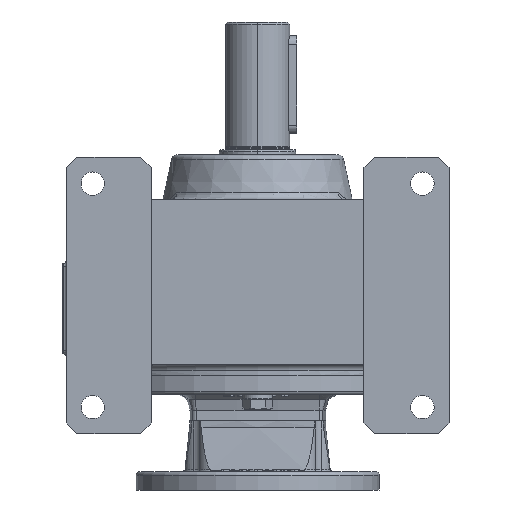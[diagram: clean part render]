
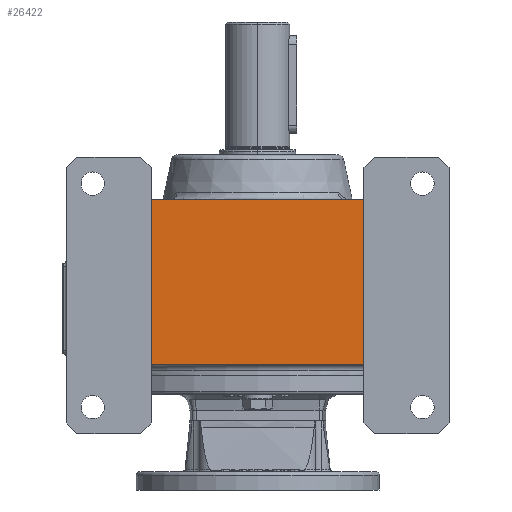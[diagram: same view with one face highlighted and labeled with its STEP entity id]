
A CAD part, front view. The second image highlights one B-rep face of the part: STEP entity #26422.
In plain terms, the highlighted planar face has unit normal (0, -1, 0).
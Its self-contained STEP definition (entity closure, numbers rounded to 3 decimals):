
#3644 = EDGE_LOOP ( 'NONE', ( #6462, #6472, #6470, #6475, #6479, #6484 ) ) ;
#6462 = ORIENTED_EDGE ( 'NONE', *, *, #26811, .F. ) ;
#6470 = ORIENTED_EDGE ( 'NONE', *, *, #26809, .T. ) ;
#6472 = ORIENTED_EDGE ( 'NONE', *, *, #26815, .T. ) ;
#6475 = ORIENTED_EDGE ( 'NONE', *, *, #26807, .T. ) ;
#6479 = ORIENTED_EDGE ( 'NONE', *, *, #26804, .F. ) ;
#6484 = ORIENTED_EDGE ( 'NONE', *, *, #26802, .T. ) ;
#25930 = CARTESIAN_POINT ( 'NONE',  ( -100., -135., -158. ) ) ;
#25931 = CARTESIAN_POINT ( 'NONE',  ( -100., -135., 0. ) ) ;
#25932 = CARTESIAN_POINT ( 'NONE',  ( -97., -135., -155. ) ) ;
#25933 = CARTESIAN_POINT ( 'NONE',  ( 97., -135., -155. ) ) ;
#25934 = CARTESIAN_POINT ( 'NONE',  ( 100., -135., -158. ) ) ;
#25935 = CARTESIAN_POINT ( 'NONE',  ( 100., -135., 0. ) ) ;
#26422 = ADVANCED_FACE ( 'NONE', ( #33521 ), #85808, .F. ) ;
#26802 = EDGE_CURVE ( 'NONE', #75389, #75385, #36493, .T. ) ;
#26804 = EDGE_CURVE ( 'NONE', #75389, #75388, #36496, .T. ) ;
#26807 = EDGE_CURVE ( 'NONE', #75387, #75388, #43788, .T. ) ;
#26809 = EDGE_CURVE ( 'NONE', #75386, #75387, #36502, .T. ) ;
#26811 = EDGE_CURVE ( 'NONE', #75384, #75385, #36505, .T. ) ;
#26815 = EDGE_CURVE ( 'NONE', #75384, #75386, #43789, .T. ) ;
#33521 = FACE_OUTER_BOUND ( 'NONE', #3644, .T. ) ;
#33524 = AXIS2_PLACEMENT_3D ( 'NONE', #85809, #85811, #85813 ) ;
#33824 = VECTOR ( 'NONE', #36495, 1000. ) ;
#33825 = AXIS2_PLACEMENT_3D ( 'NONE', #36480, #36499, #36500 ) ;
#33826 = VECTOR ( 'NONE', #36498, 1000. ) ;
#33827 = VECTOR ( 'NONE', #36504, 1000. ) ;
#33828 = AXIS2_PLACEMENT_3D ( 'NONE', #36501, #36508, #36509 ) ;
#33829 = VECTOR ( 'NONE', #36507, 1000. ) ;
#36480 = CARTESIAN_POINT ( 'NONE',  ( 97., -135., -158. ) ) ;
#36493 = LINE ( 'NONE', #36494, #33824 ) ;
#36494 = CARTESIAN_POINT ( 'NONE',  ( -193.636, -135., 0. ) ) ;
#36495 = DIRECTION ( 'NONE',  ( -1., 0., 0. ) ) ;
#36496 = LINE ( 'NONE', #36497, #33826 ) ;
#36497 = CARTESIAN_POINT ( 'NONE',  ( 100., -135., -30. ) ) ;
#36498 = DIRECTION ( 'NONE',  ( 0., 0., -1. ) ) ;
#36499 = DIRECTION ( 'NONE',  ( 0., 1., 0. ) ) ;
#36500 = DIRECTION ( 'NONE',  ( 0., 0., 1. ) ) ;
#36501 = CARTESIAN_POINT ( 'NONE',  ( -97., -135., -158. ) ) ;
#36502 = LINE ( 'NONE', #36503, #33827 ) ;
#36503 = CARTESIAN_POINT ( 'NONE',  ( -180., -135., -155. ) ) ;
#36504 = DIRECTION ( 'NONE',  ( 1., 0., 0. ) ) ;
#36505 = LINE ( 'NONE', #36506, #33829 ) ;
#36506 = CARTESIAN_POINT ( 'NONE',  ( -100., -135., -30. ) ) ;
#36507 = DIRECTION ( 'NONE',  ( 0., 0., 1. ) ) ;
#36508 = DIRECTION ( 'NONE',  ( 0., 1., 0. ) ) ;
#36509 = DIRECTION ( 'NONE',  ( 0., 0., 1. ) ) ;
#43788 = CIRCLE ( 'NONE', #33825, 3. ) ;
#43789 = CIRCLE ( 'NONE', #33828, 3. ) ;
#75384 = VERTEX_POINT ( 'NONE', #25930 ) ;
#75385 = VERTEX_POINT ( 'NONE', #25931 ) ;
#75386 = VERTEX_POINT ( 'NONE', #25932 ) ;
#75387 = VERTEX_POINT ( 'NONE', #25933 ) ;
#75388 = VERTEX_POINT ( 'NONE', #25934 ) ;
#75389 = VERTEX_POINT ( 'NONE', #25935 ) ;
#85808 = PLANE ( 'NONE',  #33524 ) ;
#85809 = CARTESIAN_POINT ( 'NONE',  ( -193.636, -135., -165. ) ) ;
#85811 = DIRECTION ( 'NONE',  ( 0., 1., 0. ) ) ;
#85813 = DIRECTION ( 'NONE',  ( 0., 0., 1. ) ) ;
